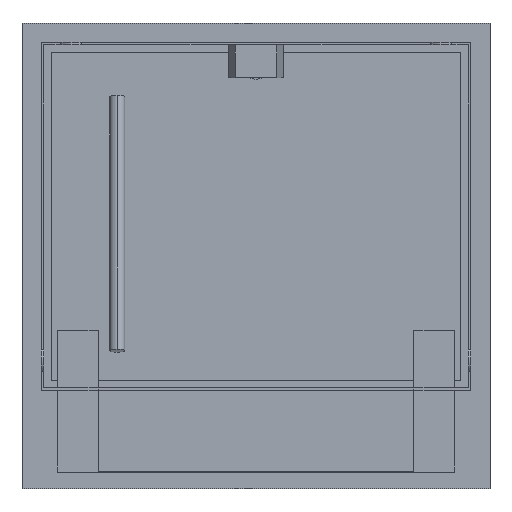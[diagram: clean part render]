
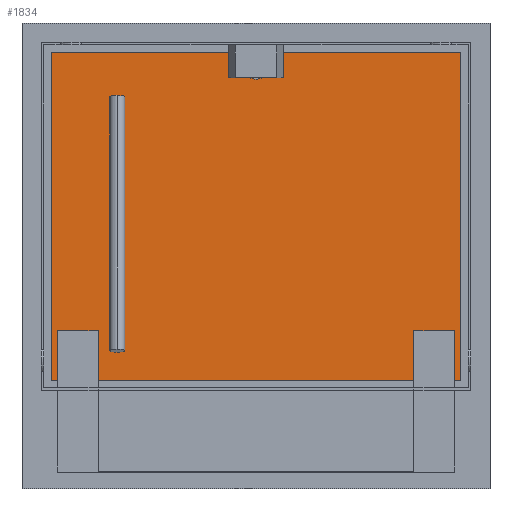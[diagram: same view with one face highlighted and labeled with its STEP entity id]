
A CAD part, front view. The second image highlights one B-rep face of the part: STEP entity #1834.
In plain terms, the highlighted planar face has unit normal (0, -1, 0).
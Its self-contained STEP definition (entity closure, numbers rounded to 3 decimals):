
#127=CARTESIAN_POINT('',(0.,-66.,280.));
#128=DIRECTION('',(0.,1.,0.));
#129=DIRECTION('',(1.,0.,0.));
#130=AXIS2_PLACEMENT_3D('',#127,#128,#129);
#132=CARTESIAN_POINT('',(0.,-66.,280.));
#133=DIRECTION('',(0.,1.,0.));
#134=DIRECTION('',(0.641,0.,0.768));
#135=AXIS2_PLACEMENT_3D('',#132,#133,#134);
#137=DIRECTION('',(-1.,0.,0.));
#138=VECTOR('',#137,358.563);
#139=CARTESIAN_POINT('',(376.5,-66.,301.5));
#140=LINE('',#139,#138);
#141=DIRECTION('',(0.,0.,1.));
#142=VECTOR('',#141,603.);
#143=CARTESIAN_POINT('',(376.5,-66.,-301.5));
#144=LINE('',#143,#142);
#145=DIRECTION('',(1.,0.,0.));
#146=VECTOR('',#145,11.5);
#147=CARTESIAN_POINT('',(365.,-66.,-301.5));
#148=LINE('',#147,#146);
#149=DIRECTION('',(1.,0.,0.));
#150=VECTOR('',#149,580.);
#151=CARTESIAN_POINT('',(-290.,-66.,-301.5));
#152=LINE('',#151,#150);
#153=DIRECTION('',(1.,0.,0.));
#154=VECTOR('',#153,11.5);
#155=CARTESIAN_POINT('',(-376.5,-66.,-301.5));
#156=LINE('',#155,#154);
#157=DIRECTION('',(0.,0.,-1.));
#158=VECTOR('',#157,603.);
#159=CARTESIAN_POINT('',(-376.5,-66.,301.5));
#160=LINE('',#159,#158);
#161=DIRECTION('',(-1.,0.,0.));
#162=VECTOR('',#161,358.563);
#163=CARTESIAN_POINT('',(-17.937,-66.,301.5));
#164=LINE('',#163,#162);
#165=CARTESIAN_POINT('',(0.,-66.,280.));
#166=DIRECTION('',(0.,1.,0.));
#167=DIRECTION('',(-1.,0.,0.));
#168=AXIS2_PLACEMENT_3D('',#165,#166,#167);
#333=DIRECTION('',(0.,0.,-1.));
#334=VECTOR('',#333,91.5);
#335=CARTESIAN_POINT('',(-365.,-66.,-210.));
#336=LINE('',#335,#334);
#341=DIRECTION('',(-1.,0.,0.));
#342=VECTOR('',#341,75.);
#343=CARTESIAN_POINT('',(-290.,-66.,-210.));
#344=LINE('',#343,#342);
#353=DIRECTION('',(0.,0.,-1.));
#354=VECTOR('',#353,91.5);
#355=CARTESIAN_POINT('',(-290.,-66.,-210.));
#356=LINE('',#355,#354);
#437=DIRECTION('',(0.,0.,-1.));
#438=VECTOR('',#437,91.5);
#439=CARTESIAN_POINT('',(290.,-66.,-210.));
#440=LINE('',#439,#438);
#453=DIRECTION('',(1.,0.,0.));
#454=VECTOR('',#453,75.);
#455=CARTESIAN_POINT('',(290.,-66.,-210.));
#456=LINE('',#455,#454);
#461=DIRECTION('',(0.,0.,-1.));
#462=VECTOR('',#461,91.5);
#463=CARTESIAN_POINT('',(365.,-66.,-210.));
#464=LINE('',#463,#462);
#1437=CARTESIAN_POINT('',(-376.5,-66.,301.5));
#1438=CARTESIAN_POINT('',(-376.5,-66.,-301.5));
#1439=VERTEX_POINT('',#1437);
#1440=VERTEX_POINT('',#1438);
#1441=CARTESIAN_POINT('',(376.5,-66.,-301.5));
#1442=CARTESIAN_POINT('',(376.5,-66.,301.5));
#1443=VERTEX_POINT('',#1441);
#1444=VERTEX_POINT('',#1442);
#1477=CARTESIAN_POINT('',(28.,-66.,280.));
#1478=CARTESIAN_POINT('',(-28.,-66.,280.));
#1479=VERTEX_POINT('',#1477);
#1480=VERTEX_POINT('',#1478);
#1481=CARTESIAN_POINT('',(-17.937,-66.,301.5));
#1482=VERTEX_POINT('',#1481);
#1483=CARTESIAN_POINT('',(17.937,-66.,301.5));
#1484=VERTEX_POINT('',#1483);
#1537=CARTESIAN_POINT('',(-290.,-66.,-210.));
#1538=CARTESIAN_POINT('',(-290.,-66.,-301.5));
#1539=VERTEX_POINT('',#1537);
#1540=VERTEX_POINT('',#1538);
#1541=CARTESIAN_POINT('',(-365.,-66.,-210.));
#1542=VERTEX_POINT('',#1541);
#1543=CARTESIAN_POINT('',(290.,-66.,-210.));
#1544=CARTESIAN_POINT('',(365.,-66.,-210.));
#1545=VERTEX_POINT('',#1543);
#1546=VERTEX_POINT('',#1544);
#1547=CARTESIAN_POINT('',(290.,-66.,-301.5));
#1548=VERTEX_POINT('',#1547);
#1549=CARTESIAN_POINT('',(-365.,-66.,-301.5));
#1550=VERTEX_POINT('',#1549);
#1707=CARTESIAN_POINT('',(365.,-66.,-301.5));
#1708=VERTEX_POINT('',#1707);
#1796=CARTESIAN_POINT('',(0.,-66.,0.));
#1797=DIRECTION('',(0.,-1.,0.));
#1798=DIRECTION('',(1.,0.,0.));
#1799=AXIS2_PLACEMENT_3D('',#1796,#1797,#1798);
#1800=PLANE('',#1799);
#1801=ORIENTED_EDGE('',*,*,#1786,.F.);
#1803=ORIENTED_EDGE('',*,*,#1802,.F.);
#1805=ORIENTED_EDGE('',*,*,#1804,.F.);
#1807=ORIENTED_EDGE('',*,*,#1806,.F.);
#1809=ORIENTED_EDGE('',*,*,#1808,.F.);
#1811=ORIENTED_EDGE('',*,*,#1810,.F.);
#1813=ORIENTED_EDGE('',*,*,#1812,.F.);
#1815=ORIENTED_EDGE('',*,*,#1814,.T.);
#1817=ORIENTED_EDGE('',*,*,#1816,.F.);
#1819=ORIENTED_EDGE('',*,*,#1818,.F.);
#1821=ORIENTED_EDGE('',*,*,#1820,.T.);
#1823=ORIENTED_EDGE('',*,*,#1822,.T.);
#1825=ORIENTED_EDGE('',*,*,#1824,.F.);
#1827=ORIENTED_EDGE('',*,*,#1826,.F.);
#1829=ORIENTED_EDGE('',*,*,#1828,.F.);
#1831=ORIENTED_EDGE('',*,*,#1830,.F.);
#1832=EDGE_LOOP('',(#1801,#1803,#1805,#1807,#1809,#1811,#1813,#1815,#1817,#1819,
#1821,#1823,#1825,#1827,#1829,#1831));
#1833=FACE_OUTER_BOUND('',#1832,.F.);
#131=CIRCLE('',#130,28.);
#136=CIRCLE('',#135,28.);
#169=CIRCLE('',#168,28.);
#1786=EDGE_CURVE('',#1479,#1480,#131,.T.);
#1802=EDGE_CURVE('',#1484,#1479,#136,.T.);
#1804=EDGE_CURVE('',#1444,#1484,#140,.T.);
#1806=EDGE_CURVE('',#1443,#1444,#144,.T.);
#1808=EDGE_CURVE('',#1708,#1443,#148,.T.);
#1810=EDGE_CURVE('',#1546,#1708,#464,.T.);
#1812=EDGE_CURVE('',#1545,#1546,#456,.T.);
#1814=EDGE_CURVE('',#1545,#1548,#440,.T.);
#1816=EDGE_CURVE('',#1540,#1548,#152,.T.);
#1818=EDGE_CURVE('',#1539,#1540,#356,.T.);
#1820=EDGE_CURVE('',#1539,#1542,#344,.T.);
#1822=EDGE_CURVE('',#1542,#1550,#336,.T.);
#1824=EDGE_CURVE('',#1440,#1550,#156,.T.);
#1826=EDGE_CURVE('',#1439,#1440,#160,.T.);
#1828=EDGE_CURVE('',#1482,#1439,#164,.T.);
#1830=EDGE_CURVE('',#1480,#1482,#169,.T.);
#1834=ADVANCED_FACE('',(#1833),#1800,.T.);
